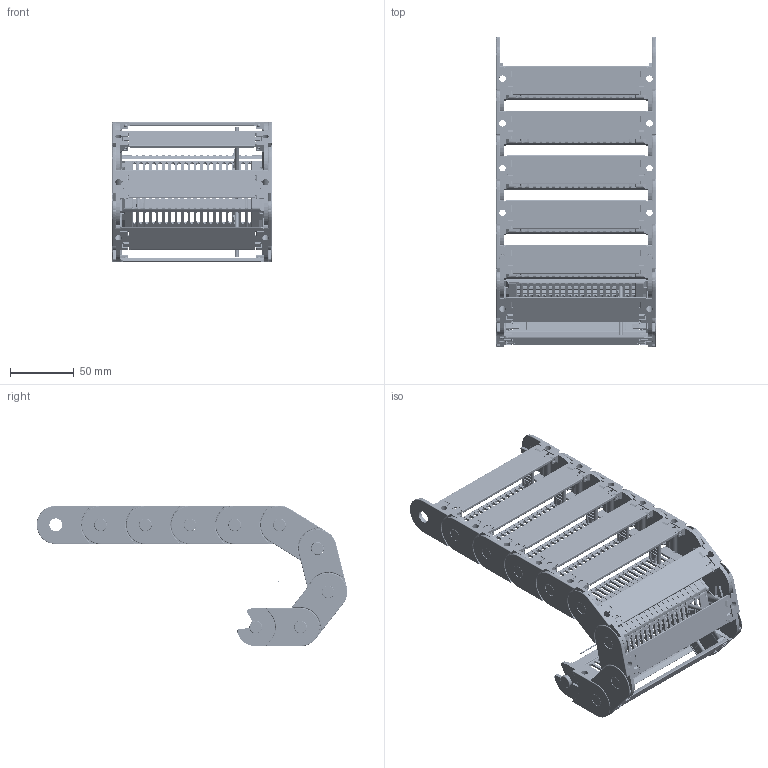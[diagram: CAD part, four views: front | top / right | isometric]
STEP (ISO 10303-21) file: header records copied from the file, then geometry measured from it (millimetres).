
FILE_DESCRIPTION((''),'2;1');
FILE_NAME('C:\Uebbing\PARAMETERKETTEN\KOLIBRI\Kol_30_125_1\Kol 30_125_1_R40.stp','2012-03-05T12:38:55',('Uebbing'),(''),'Autodesk Inventor 10','Autodesk Inventor 10','');
FILE_SCHEMA(('AUTOMOTIVE_DESIGN { 1 0 10303 214 1 1 1 1 }'));
Length unit declared in the file: millimetre
Products named in the file (6): KOLIBRI 30_125_1_PARAMETRISCH; Achse; Kol_30_125_1; PZ 30 Stecksteg; Kol 30_125_1 Lasche; Kol_30_125_0_Klappsteg
Assembly tree (13 placements, depth 3):
  KOLIBRI 30_125_1_PARAMETRISCH
    Achse
    Kol_30_125_1  x9
      PZ 30 Stecksteg
      Kol 30_125_1 Lasche
      Kol_30_125_0_Klappsteg
Bounding box: 125 x 243.06 x 110 mm (x, y, z)
Volume: 202802.3 mm3; surface area: 204952.3 mm2
Topology: 28 solids, 28 shells, 7023 faces, 19750 edges, 12837 vertices
Faces by surface type: plane 3494, bspline 1674, cylinder 1558, torus 216, cone 54, sphere 27
Full cylindrical faces by diameter (mm): 1 x1, 1.166 x9, 2.048 x9, 2.8 x54, 5.1 x9, 10 x9, 10.1 x9
Entity records: 28187 total; most frequent: CARTESIAN_POINT 8076, ORIENTED_EDGE 4324, DIRECTION 3954, EDGE_CURVE 2162, VECTOR 1442, LINE 1442, VERTEX_POINT 1424, AXIS2_PLACEMENT_3D 1256
